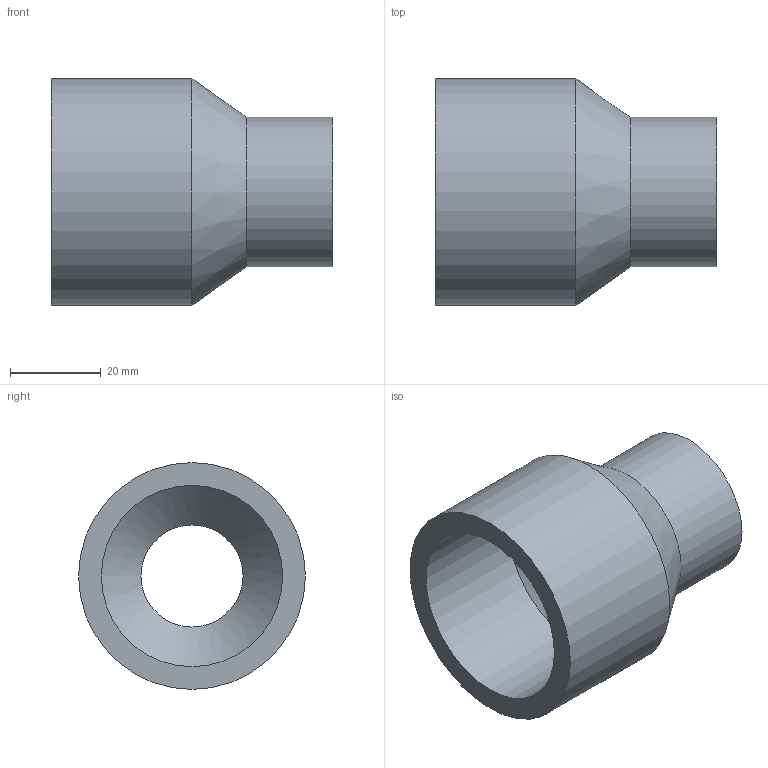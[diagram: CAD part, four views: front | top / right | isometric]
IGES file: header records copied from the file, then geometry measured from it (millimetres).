
Global section: file name: 050200050025.ipt; native system: Autodesk Inventor 2015; preprocessor: unknown; author: KIM; date: 20171207.164158; units: millimetre
Bounding box: 62 x 50 x 50 mm (x, y, z)
Volume: 41411.9 mm3; surface area: 16478.6 mm2
Topology: 1 solids, 1 shells, 10 faces, 23 edges, 16 vertices
Faces by surface type: revolution 4, plane 3, cylinder 2, cone 1
Full cylindrical faces by diameter (mm): 33 x1, 50 x1
